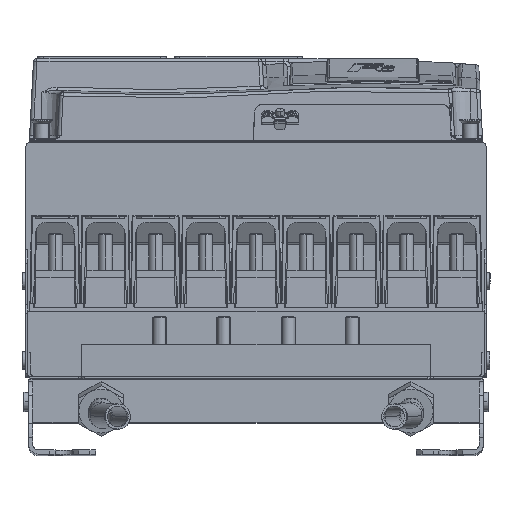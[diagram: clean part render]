
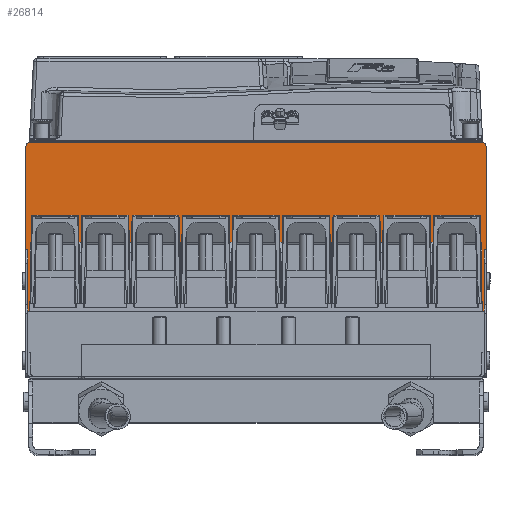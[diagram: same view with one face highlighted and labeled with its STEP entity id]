
A CAD part, top view. The second image highlights one B-rep face of the part: STEP entity #26814.
In plain terms, the highlighted planar face has unit normal (0, 0, 1).
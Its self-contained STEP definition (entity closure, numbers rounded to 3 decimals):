
#1261 = CARTESIAN_POINT ( 'NONE',  ( -161.5, 0., 453. ) ) ;
#3876 = LINE ( 'NONE', #91088, #27688 ) ;
#5081 = VECTOR ( 'NONE', #93726, 1000. ) ;
#6428 = DIRECTION ( 'NONE',  ( 0., -1., 0. ) ) ;
#6592 = EDGE_CURVE ( 'NONE', #65766, #48000, #15759, .T. ) ;
#8248 = VECTOR ( 'NONE', #47903, 1000. ) ;
#10022 = ORIENTED_EDGE ( 'NONE', *, *, #102000, .T. ) ;
#10300 = DIRECTION ( 'NONE',  ( 0., 1., 0. ) ) ;
#13414 = LINE ( 'NONE', #80530, #18829 ) ;
#15759 = CIRCLE ( 'NONE', #75786, 3.5 ) ;
#16831 = EDGE_CURVE ( 'NONE', #100825, #52550, #105292, .T. ) ;
#17487 = DIRECTION ( 'NONE',  ( 0., -1., 0. ) ) ;
#18700 = DIRECTION ( 'NONE',  ( 0., 1., 0. ) ) ;
#18829 = VECTOR ( 'NONE', #46214, 1000. ) ;
#19151 = ORIENTED_EDGE ( 'NONE', *, *, #82920, .T. ) ;
#19765 = CARTESIAN_POINT ( 'NONE',  ( 161.5, -3.5, 453. ) ) ;
#20830 = CARTESIAN_POINT ( 'NONE',  ( 161.5, 0., 453. ) ) ;
#21629 = ORIENTED_EDGE ( 'NONE', *, *, #48717, .F. ) ;
#22266 = CARTESIAN_POINT ( 'NONE',  ( -163.5, 0., 453. ) ) ;
#23711 = PLANE ( 'NONE',  #55243 ) ;
#24845 = ORIENTED_EDGE ( 'NONE', *, *, #6592, .F. ) ;
#26101 = CARTESIAN_POINT ( 'NONE',  ( -165., -77., 453. ) ) ;
#26814 = ADVANCED_FACE ( 'NONE', ( #90302 ), #23711, .F. ) ;
#27688 = VECTOR ( 'NONE', #17487, 1000. ) ;
#31125 = EDGE_LOOP ( 'NONE', ( #24845, #19151, #79491, #21629, #50998, #83797, #80998, #10022, #36571, #52199 ) ) ;
#32763 = VERTEX_POINT ( 'NONE', #26101 ) ;
#33305 = CIRCLE ( 'NONE', #60711, 3.5 ) ;
#33740 = LINE ( 'NONE', #64832, #67261 ) ;
#36571 = ORIENTED_EDGE ( 'NONE', *, *, #61371, .F. ) ;
#40553 = CARTESIAN_POINT ( 'NONE',  ( 163.5, -77., 453. ) ) ;
#40586 = CARTESIAN_POINT ( 'NONE',  ( -163.5, -77., 453. ) ) ;
#41243 = DIRECTION ( 'NONE',  ( -1., 0., 0. ) ) ;
#43869 = VERTEX_POINT ( 'NONE', #95741 ) ;
#45866 = LINE ( 'NONE', #71021, #5081 ) ;
#46214 = DIRECTION ( 'NONE',  ( 1., 0., 0. ) ) ;
#47304 = CARTESIAN_POINT ( 'NONE',  ( 163.5, 0., 453. ) ) ;
#47903 = DIRECTION ( 'NONE',  ( 1., 0., 0. ) ) ;
#48000 = VERTEX_POINT ( 'NONE', #1261 ) ;
#48717 = EDGE_CURVE ( 'NONE', #43869, #105290, #54448, .T. ) ;
#50998 = ORIENTED_EDGE ( 'NONE', *, *, #101155, .F. ) ;
#52199 = ORIENTED_EDGE ( 'NONE', *, *, #75745, .F. ) ;
#52550 = VERTEX_POINT ( 'NONE', #87270 ) ;
#52716 = CARTESIAN_POINT ( 'NONE',  ( -161.5, -3.5, 453. ) ) ;
#54448 = LINE ( 'NONE', #22266, #100385 ) ;
#55243 = AXIS2_PLACEMENT_3D ( 'NONE', #56424, #89226, #81151 ) ;
#55391 = EDGE_CURVE ( 'NONE', #32763, #105290, #13414, .T. ) ;
#56424 = CARTESIAN_POINT ( 'NONE',  ( 0., 0., 453. ) ) ;
#57437 = CARTESIAN_POINT ( 'NONE',  ( -165., -3.5, 453. ) ) ;
#57648 = VERTEX_POINT ( 'NONE', #79377 ) ;
#60711 = AXIS2_PLACEMENT_3D ( 'NONE', #19765, #92296, #18700 ) ;
#61371 = EDGE_CURVE ( 'NONE', #89463, #90755, #33305, .T. ) ;
#62295 = CARTESIAN_POINT ( 'NONE',  ( 0., -167.9, 453. ) ) ;
#64832 = CARTESIAN_POINT ( 'NONE',  ( 165.001, -77., 453. ) ) ;
#65766 = VERTEX_POINT ( 'NONE', #57437 ) ;
#67261 = VECTOR ( 'NONE', #41243, 1000. ) ;
#71021 = CARTESIAN_POINT ( 'NONE',  ( 165., -3.5, 453. ) ) ;
#75745 = EDGE_CURVE ( 'NONE', #48000, #89463, #104816, .T. ) ;
#75782 = DIRECTION ( 'NONE',  ( 0., 0., -1. ) ) ;
#75786 = AXIS2_PLACEMENT_3D ( 'NONE', #52716, #75782, #10300 ) ;
#79377 = CARTESIAN_POINT ( 'NONE',  ( 165., -77., 453. ) ) ;
#79491 = ORIENTED_EDGE ( 'NONE', *, *, #55391, .T. ) ;
#80530 = CARTESIAN_POINT ( 'NONE',  ( -165.001, -77., 453. ) ) ;
#80998 = ORIENTED_EDGE ( 'NONE', *, *, #95582, .F. ) ;
#81151 = DIRECTION ( 'NONE',  ( 0., 1., 0. ) ) ;
#82920 = EDGE_CURVE ( 'NONE', #65766, #32763, #3876, .T. ) ;
#83797 = ORIENTED_EDGE ( 'NONE', *, *, #16831, .F. ) ;
#86536 = LINE ( 'NONE', #62295, #102369 ) ;
#87270 = CARTESIAN_POINT ( 'NONE',  ( 163.5, -167.9, 453. ) ) ;
#88297 = DIRECTION ( 'NONE',  ( 0., 1., 0. ) ) ;
#89226 = DIRECTION ( 'NONE',  ( 0., 0., -1. ) ) ;
#89463 = VERTEX_POINT ( 'NONE', #20830 ) ;
#89827 = CARTESIAN_POINT ( 'NONE',  ( 165., -3.5, 453. ) ) ;
#90302 = FACE_OUTER_BOUND ( 'NONE', #31125, .T. ) ;
#90755 = VERTEX_POINT ( 'NONE', #89827 ) ;
#91088 = CARTESIAN_POINT ( 'NONE',  ( -165., -3.5, 453. ) ) ;
#92296 = DIRECTION ( 'NONE',  ( 0., 0., -1. ) ) ;
#93726 = DIRECTION ( 'NONE',  ( 0., 1., 0. ) ) ;
#94200 = VECTOR ( 'NONE', #6428, 1000. ) ;
#95582 = EDGE_CURVE ( 'NONE', #57648, #100825, #33740, .T. ) ;
#95741 = CARTESIAN_POINT ( 'NONE',  ( -163.5, -167.9, 453. ) ) ;
#96787 = CARTESIAN_POINT ( 'NONE',  ( 0., 0., 453. ) ) ;
#100385 = VECTOR ( 'NONE', #88297, 1000. ) ;
#100825 = VERTEX_POINT ( 'NONE', #40553 ) ;
#101155 = EDGE_CURVE ( 'NONE', #52550, #43869, #86536, .T. ) ;
#102000 = EDGE_CURVE ( 'NONE', #57648, #90755, #45866, .T. ) ;
#102369 = VECTOR ( 'NONE', #103154, 1000. ) ;
#103154 = DIRECTION ( 'NONE',  ( -1., 0., 0. ) ) ;
#104816 = LINE ( 'NONE', #96787, #8248 ) ;
#105290 = VERTEX_POINT ( 'NONE', #40586 ) ;
#105292 = LINE ( 'NONE', #47304, #94200 ) ;
